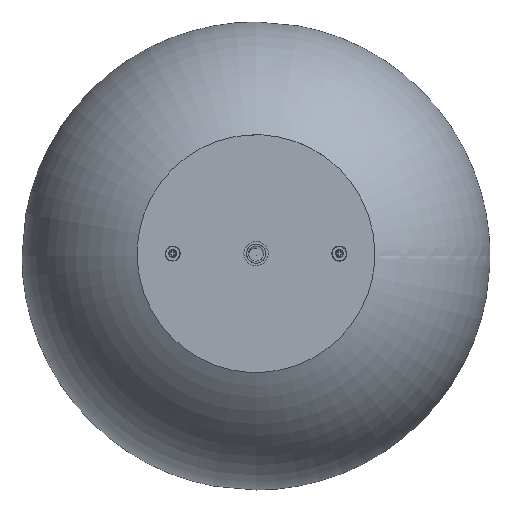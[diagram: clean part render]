
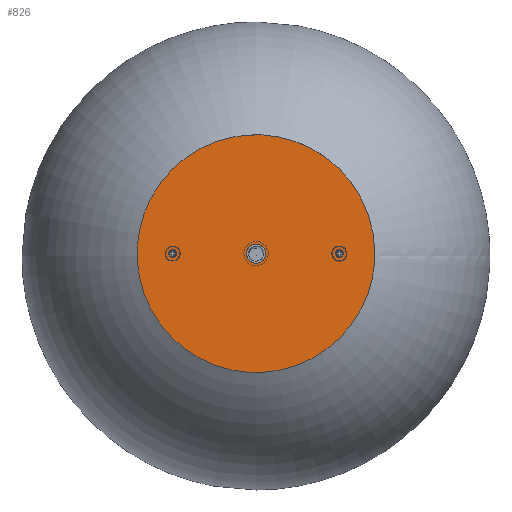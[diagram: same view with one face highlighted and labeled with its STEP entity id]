
A CAD part, top view. The second image highlights one B-rep face of the part: STEP entity #826.
In plain terms, the highlighted planar face has unit normal (0, 0, 1).
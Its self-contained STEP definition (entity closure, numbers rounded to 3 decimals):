
#780=FACE_BOUND('',#1606,.T.);
#781=FACE_BOUND('',#1607,.T.);
#782=FACE_BOUND('',#1608,.T.);
#826=ADVANCED_FACE('',(#1213,#780,#781,#782),#5772,.T.);
#1213=FACE_OUTER_BOUND('',#1605,.T.);
#1605=EDGE_LOOP('',(#2046));
#1606=EDGE_LOOP('',(#2047));
#1607=EDGE_LOOP('',(#2048));
#1608=EDGE_LOOP('',(#2049));
#2046=ORIENTED_EDGE('',*,*,#3927,.T.);
#2047=ORIENTED_EDGE('',*,*,#3928,.F.);
#2048=ORIENTED_EDGE('',*,*,#3936,.T.);
#2049=ORIENTED_EDGE('',*,*,#3945,.F.);
#3927=EDGE_CURVE('',#5164,#5164,#4874,.T.);
#3928=EDGE_CURVE('',#5166,#5166,#4875,.T.);
#3936=EDGE_CURVE('',#5167,#5167,#4880,.T.);
#3945=EDGE_CURVE('',#5168,#5168,#4887,.T.);
#4874=(
BOUNDED_CURVE()
B_SPLINE_CURVE(2,(#6989,#6990,#6991,#6992,#6993,#6994,#6995,#6996,#6997),
 .UNSPECIFIED.,.T.,.F.)
B_SPLINE_CURVE_WITH_KNOTS((3,2,2,2,3),(-398.982,-299.237,
-199.491,-99.746,0.),.UNSPECIFIED.)
CURVE()
GEOMETRIC_REPRESENTATION_ITEM()
RATIONAL_B_SPLINE_CURVE((1.,0.707,1.,0.707,1.,0.707,
1.,0.707,1.))
REPRESENTATION_ITEM('')
);
#4875=(
BOUNDED_CURVE()
B_SPLINE_CURVE(2,(#6998,#6999,#7000,#7001,#7002,#7003,#7004,#7005,#7006),
 .UNSPECIFIED.,.T.,.F.)
B_SPLINE_CURVE_WITH_KNOTS((3,2,2,2,3),(0.,8.011,16.022,
24.033,32.044),.UNSPECIFIED.)
CURVE()
GEOMETRIC_REPRESENTATION_ITEM()
RATIONAL_B_SPLINE_CURVE((1.,0.707,1.,0.707,1.,0.707,
1.,0.707,1.))
REPRESENTATION_ITEM('')
);
#4880=(
BOUNDED_CURVE()
B_SPLINE_CURVE(2,(#7055,#7056,#7057,#7058,#7059,#7060,#7061,#7062,#7063,
#7064,#7065,#7066,#7067),.UNSPECIFIED.,.T.,.F.)
B_SPLINE_CURVE_WITH_KNOTS((3,2,2,2,2,2,3),(14.88,22.32,
29.76,33.479,37.199,40.919,44.639),
 .UNSPECIFIED.)
CURVE()
GEOMETRIC_REPRESENTATION_ITEM()
RATIONAL_B_SPLINE_CURVE((1.,0.707,1.,0.707,1.,0.924,
1.,0.924,1.,0.924,1.,0.924,1.))
REPRESENTATION_ITEM('')
);
#4887=(
BOUNDED_CURVE()
B_SPLINE_CURVE(2,(#7222,#7223,#7224,#7225,#7226,#7227,#7228,#7229,#7230,
#7231,#7232,#7233,#7234),.UNSPECIFIED.,.T.,.F.)
B_SPLINE_CURVE_WITH_KNOTS((3,2,2,2,2,2,3),(14.88,22.32,
29.76,33.479,37.199,40.919,44.639),
 .UNSPECIFIED.)
CURVE()
GEOMETRIC_REPRESENTATION_ITEM()
RATIONAL_B_SPLINE_CURVE((1.,0.707,1.,0.707,1.,0.924,
1.,0.924,1.,0.924,1.,0.924,1.))
REPRESENTATION_ITEM('')
);
#5164=VERTEX_POINT('',#6965);
#5166=VERTEX_POINT('',#6967);
#5167=VERTEX_POINT('',#6968);
#5168=VERTEX_POINT('',#6969);
#5772=PLANE('',#6173);
#6173=AXIS2_PLACEMENT_3D('',#6849,#6488,$);
#6488=DIRECTION('',(0.,0.,1.));
#6849=CARTESIAN_POINT('',(-79.375,-79.375,0.));
#6965=CARTESIAN_POINT('',(63.5,0.,0.));
#6967=CARTESIAN_POINT('',(5.1,0.,0.));
#6968=CARTESIAN_POINT('',(-42.4,0.,0.));
#6969=CARTESIAN_POINT('',(42.4,0.,0.));
#6989=CARTESIAN_POINT('',(63.5,0.,0.));
#6990=CARTESIAN_POINT('',(63.5,63.5,0.));
#6991=CARTESIAN_POINT('',(0.,63.5,0.));
#6992=CARTESIAN_POINT('',(-63.5,63.5,0.));
#6993=CARTESIAN_POINT('',(-63.5,0.,0.));
#6994=CARTESIAN_POINT('',(-63.5,-63.5,0.));
#6995=CARTESIAN_POINT('',(0.,-63.5,0.));
#6996=CARTESIAN_POINT('',(63.5,-63.5,0.));
#6997=CARTESIAN_POINT('',(63.5,0.,0.));
#6998=CARTESIAN_POINT('',(5.1,0.,0.));
#6999=CARTESIAN_POINT('',(5.1,5.1,0.));
#7000=CARTESIAN_POINT('',(0.,5.1,0.));
#7001=CARTESIAN_POINT('',(-5.1,5.1,0.));
#7002=CARTESIAN_POINT('',(-5.1,0.,0.));
#7003=CARTESIAN_POINT('',(-5.1,-5.1,0.));
#7004=CARTESIAN_POINT('',(0.,-5.1,0.));
#7005=CARTESIAN_POINT('',(5.1,-5.1,0.));
#7006=CARTESIAN_POINT('',(5.1,0.,0.));
#7055=CARTESIAN_POINT('',(-42.4,0.,0.));
#7056=CARTESIAN_POINT('',(-42.4,-2.1,0.));
#7057=CARTESIAN_POINT('',(-44.5,-2.1,0.));
#7058=CARTESIAN_POINT('',(-46.6,-2.1,0.));
#7059=CARTESIAN_POINT('',(-46.6,0.,0.));
#7060=CARTESIAN_POINT('',(-46.6,0.87,0.));
#7061=CARTESIAN_POINT('',(-45.985,1.485,0.));
#7062=CARTESIAN_POINT('',(-45.37,2.1,0.));
#7063=CARTESIAN_POINT('',(-44.5,2.1,0.));
#7064=CARTESIAN_POINT('',(-43.63,2.1,0.));
#7065=CARTESIAN_POINT('',(-43.015,1.485,0.));
#7066=CARTESIAN_POINT('',(-42.4,0.87,0.));
#7067=CARTESIAN_POINT('',(-42.4,0.,0.));
#7222=CARTESIAN_POINT('',(42.4,0.,0.));
#7223=CARTESIAN_POINT('',(42.4,-2.1,0.));
#7224=CARTESIAN_POINT('',(44.5,-2.1,0.));
#7225=CARTESIAN_POINT('',(46.6,-2.1,0.));
#7226=CARTESIAN_POINT('',(46.6,0.,0.));
#7227=CARTESIAN_POINT('',(46.6,0.87,0.));
#7228=CARTESIAN_POINT('',(45.985,1.485,0.));
#7229=CARTESIAN_POINT('',(45.37,2.1,0.));
#7230=CARTESIAN_POINT('',(44.5,2.1,0.));
#7231=CARTESIAN_POINT('',(43.63,2.1,0.));
#7232=CARTESIAN_POINT('',(43.015,1.485,0.));
#7233=CARTESIAN_POINT('',(42.4,0.87,0.));
#7234=CARTESIAN_POINT('',(42.4,0.,0.));
